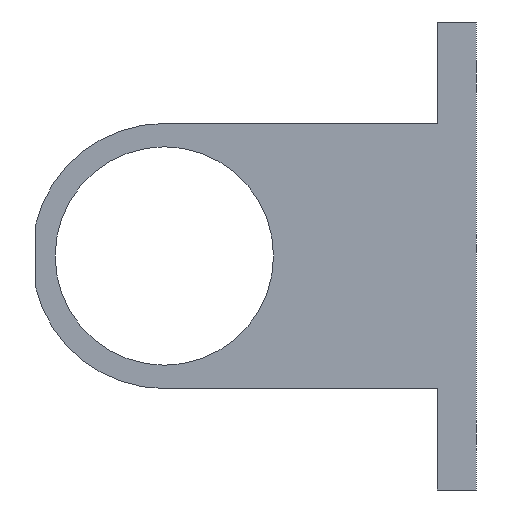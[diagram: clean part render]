
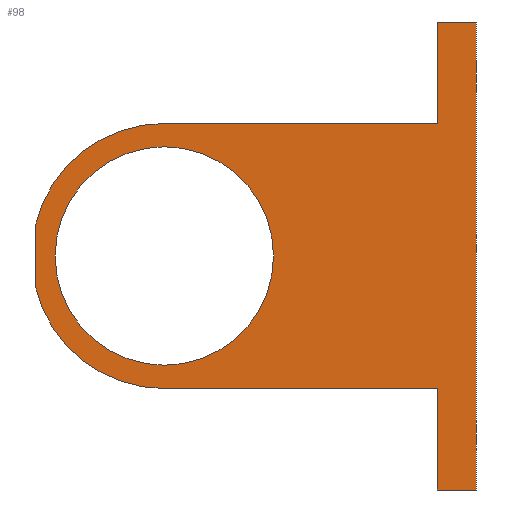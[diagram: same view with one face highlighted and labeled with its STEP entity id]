
A CAD part, left-side view. The second image highlights one B-rep face of the part: STEP entity #98.
In plain terms, the highlighted planar face has unit normal (-1, 0, 0).
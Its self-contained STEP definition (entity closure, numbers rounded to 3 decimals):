
#3 = CARTESIAN_POINT ( 'NONE',  ( -10., 16.5, -4.093 ) ) ;
#15 = DIRECTION ( 'NONE',  ( 1., 0., 0. ) ) ;
#16 = VERTEX_POINT ( 'NONE', #219 ) ;
#24 = VERTEX_POINT ( 'NONE', #142 ) ;
#25 = ORIENTED_EDGE ( 'NONE', *, *, #46, .T. ) ;
#28 = LINE ( 'NONE', #557, #390 ) ;
#33 = AXIS2_PLACEMENT_3D ( 'NONE', #193, #301, #495 ) ;
#40 = DIRECTION ( 'NONE',  ( 0., 0., -1. ) ) ;
#43 = CARTESIAN_POINT ( 'NONE',  ( -10., -35., -17. ) ) ;
#46 = EDGE_CURVE ( 'NONE', #551, #317, #86, .T. ) ;
#54 = CARTESIAN_POINT ( 'NONE',  ( -10., 0., 14. ) ) ;
#56 = DIRECTION ( 'NONE',  ( -1., 0., 0. ) ) ;
#59 = CARTESIAN_POINT ( 'NONE',  ( -10., 0., -14. ) ) ;
#64 = EDGE_CURVE ( 'NONE', #309, #477, #282, .T. ) ;
#70 = ORIENTED_EDGE ( 'NONE', *, *, #220, .T. ) ;
#86 = LINE ( 'NONE', #275, #613 ) ;
#89 = EDGE_CURVE ( 'NONE', #415, #101, #148, .T. ) ;
#98 = ADVANCED_FACE ( 'NONE', ( #308, #441 ), #626, .F. ) ;
#101 = VERTEX_POINT ( 'NONE', #54 ) ;
#113 = ORIENTED_EDGE ( 'NONE', *, *, #471, .F. ) ;
#115 = AXIS2_PLACEMENT_3D ( 'NONE', #451, #421, #124 ) ;
#117 = ORIENTED_EDGE ( 'NONE', *, *, #64, .T. ) ;
#119 = CIRCLE ( 'NONE', #472, 14. ) ;
#124 = DIRECTION ( 'NONE',  ( 0., 0., -1. ) ) ;
#130 = DIRECTION ( 'NONE',  ( 0., 1., 0. ) ) ;
#135 = LINE ( 'NONE', #405, #230 ) ;
#140 = CARTESIAN_POINT ( 'NONE',  ( -10., 0., 17. ) ) ;
#142 = CARTESIAN_POINT ( 'NONE',  ( -10., 0., -17. ) ) ;
#146 = EDGE_CURVE ( 'NONE', #296, #16, #28, .T. ) ;
#148 = CIRCLE ( 'NONE', #174, 14. ) ;
#157 = EDGE_CURVE ( 'NONE', #317, #501, #135, .T. ) ;
#164 = CARTESIAN_POINT ( 'NONE',  ( -10., -35., 30. ) ) ;
#168 = DIRECTION ( 'NONE',  ( 0., 0., -1. ) ) ;
#174 = AXIS2_PLACEMENT_3D ( 'NONE', #197, #341, #536 ) ;
#189 = VERTEX_POINT ( 'NONE', #588 ) ;
#193 = CARTESIAN_POINT ( 'NONE',  ( -10., 0., 0. ) ) ;
#197 = CARTESIAN_POINT ( 'NONE',  ( -10., 0., 0. ) ) ;
#204 = ORIENTED_EDGE ( 'NONE', *, *, #89, .F. ) ;
#209 = DIRECTION ( 'NONE',  ( 0., 0., -1. ) ) ;
#210 = ORIENTED_EDGE ( 'NONE', *, *, #556, .F. ) ;
#215 = EDGE_CURVE ( 'NONE', #309, #358, #367, .T. ) ;
#219 = CARTESIAN_POINT ( 'NONE',  ( -10., -35., -30. ) ) ;
#220 = EDGE_CURVE ( 'NONE', #501, #189, #410, .T. ) ;
#230 = VECTOR ( 'NONE', #130, 1000. ) ;
#259 = LINE ( 'NONE', #359, #546 ) ;
#264 = DIRECTION ( 'NONE',  ( 0., -1., 0. ) ) ;
#267 = VECTOR ( 'NONE', #40, 1000. ) ;
#275 = CARTESIAN_POINT ( 'NONE',  ( -10., -40., 17. ) ) ;
#282 = LINE ( 'NONE', #285, #267 ) ;
#284 = EDGE_CURVE ( 'NONE', #189, #358, #328, .T. ) ;
#285 = CARTESIAN_POINT ( 'NONE',  ( -10., 16.5, 0. ) ) ;
#295 = CIRCLE ( 'NONE', #115, 17. ) ;
#296 = VERTEX_POINT ( 'NONE', #43 ) ;
#301 = DIRECTION ( 'NONE',  ( 1., 0., 0. ) ) ;
#302 = CARTESIAN_POINT ( 'NONE',  ( -10., 0., 0. ) ) ;
#308 = FACE_BOUND ( 'NONE', #434, .T. ) ;
#309 = VERTEX_POINT ( 'NONE', #473 ) ;
#317 = VERTEX_POINT ( 'NONE', #433 ) ;
#318 = CARTESIAN_POINT ( 'NONE',  ( -10., -40., -30. ) ) ;
#328 = LINE ( 'NONE', #140, #532 ) ;
#339 = ORIENTED_EDGE ( 'NONE', *, *, #215, .F. ) ;
#341 = DIRECTION ( 'NONE',  ( -1., 0., 0. ) ) ;
#344 = EDGE_LOOP ( 'NONE', ( #339, #117, #210, #357, #431, #539, #25, #508, #70, #609 ) ) ;
#357 = ORIENTED_EDGE ( 'NONE', *, *, #543, .T. ) ;
#358 = VERTEX_POINT ( 'NONE', #528 ) ;
#359 = CARTESIAN_POINT ( 'NONE',  ( -10., -35., -30. ) ) ;
#360 = DIRECTION ( 'NONE',  ( 0., 0., -1. ) ) ;
#367 = CIRCLE ( 'NONE', #409, 17. ) ;
#372 = CARTESIAN_POINT ( 'NONE',  ( -10., 0., 0. ) ) ;
#375 = VECTOR ( 'NONE', #591, 1000. ) ;
#387 = DIRECTION ( 'NONE',  ( 0., 1., 0. ) ) ;
#390 = VECTOR ( 'NONE', #168, 1000. ) ;
#405 = CARTESIAN_POINT ( 'NONE',  ( -10., -35., 30. ) ) ;
#408 = CARTESIAN_POINT ( 'NONE',  ( -10., -35., 30. ) ) ;
#409 = AXIS2_PLACEMENT_3D ( 'NONE', #372, #15, #209 ) ;
#410 = LINE ( 'NONE', #164, #460 ) ;
#415 = VERTEX_POINT ( 'NONE', #59 ) ;
#421 = DIRECTION ( 'NONE',  ( 1., 0., 0. ) ) ;
#431 = ORIENTED_EDGE ( 'NONE', *, *, #146, .T. ) ;
#433 = CARTESIAN_POINT ( 'NONE',  ( -10., -40., 30. ) ) ;
#434 = EDGE_LOOP ( 'NONE', ( #113, #204 ) ) ;
#441 = FACE_OUTER_BOUND ( 'NONE', #344, .T. ) ;
#447 = DIRECTION ( 'NONE',  ( 0., 0., 1. ) ) ;
#451 = CARTESIAN_POINT ( 'NONE',  ( -10., 0., 0. ) ) ;
#460 = VECTOR ( 'NONE', #360, 1000. ) ;
#463 = CARTESIAN_POINT ( 'NONE',  ( -10., 0., -17. ) ) ;
#471 = EDGE_CURVE ( 'NONE', #101, #415, #119, .T. ) ;
#472 = AXIS2_PLACEMENT_3D ( 'NONE', #302, #56, #447 ) ;
#473 = CARTESIAN_POINT ( 'NONE',  ( -10., 16.5, 4.093 ) ) ;
#477 = VERTEX_POINT ( 'NONE', #3 ) ;
#495 = DIRECTION ( 'NONE',  ( 0., 0., -1. ) ) ;
#500 = LINE ( 'NONE', #463, #375 ) ;
#501 = VERTEX_POINT ( 'NONE', #408 ) ;
#508 = ORIENTED_EDGE ( 'NONE', *, *, #157, .T. ) ;
#509 = EDGE_CURVE ( 'NONE', #16, #551, #259, .T. ) ;
#528 = CARTESIAN_POINT ( 'NONE',  ( -10., 0., 17. ) ) ;
#532 = VECTOR ( 'NONE', #387, 1000. ) ;
#536 = DIRECTION ( 'NONE',  ( 0., 0., 1. ) ) ;
#539 = ORIENTED_EDGE ( 'NONE', *, *, #509, .T. ) ;
#543 = EDGE_CURVE ( 'NONE', #24, #296, #500, .T. ) ;
#546 = VECTOR ( 'NONE', #264, 1000. ) ;
#551 = VERTEX_POINT ( 'NONE', #318 ) ;
#556 = EDGE_CURVE ( 'NONE', #24, #477, #295, .T. ) ;
#557 = CARTESIAN_POINT ( 'NONE',  ( -10., -35., 30. ) ) ;
#567 = DIRECTION ( 'NONE',  ( 0., 0., 1. ) ) ;
#588 = CARTESIAN_POINT ( 'NONE',  ( -10., -35., 17. ) ) ;
#591 = DIRECTION ( 'NONE',  ( 0., -1., 0. ) ) ;
#609 = ORIENTED_EDGE ( 'NONE', *, *, #284, .T. ) ;
#613 = VECTOR ( 'NONE', #567, 1000. ) ;
#626 = PLANE ( 'NONE',  #33 ) ;
